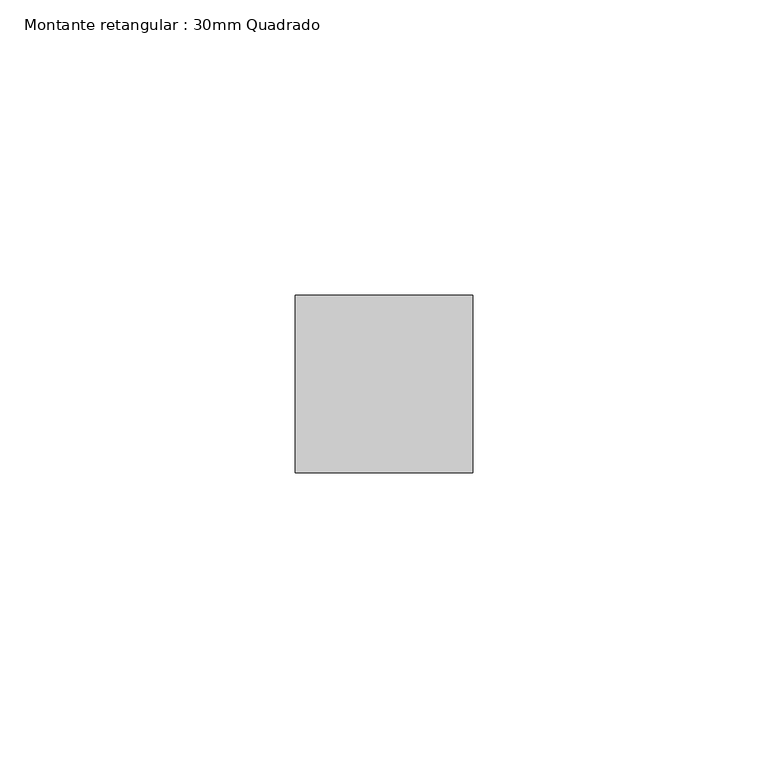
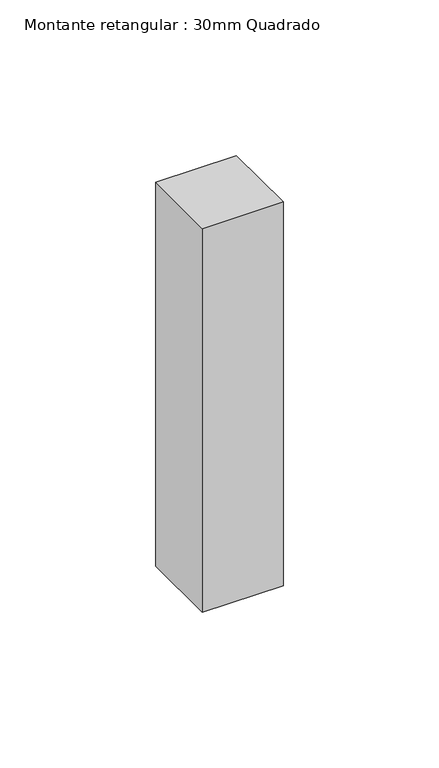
"""IFC4 building model written with IfcOpenShell, lengths in millimetres: member geometry, Montante retangular : 30mm Quadrado."""

import ifcopenshell
import ifcopenshell.guid

model = None  # the IFC model being written
_history = None  # IfcOwnerHistory: only IFC2X3 demands one
_inside = {}  # id of a spatial element -> (the spatial element, [elements in it])
_under = {}  # id of a project, library or spatial element -> (it, [spatial elements below it])
_declared = {}  # id of a project -> (the project, [libraries it declares])
_typed = {}  # id of a type object -> (the type object, [elements of that type])
_made_of = {}  # id of a material, layer set ... -> (it, [elements and type objects made of it])


def new_model(schema):
    """Start an empty IFC model of exactly this schema.

    Asked for "IFC4X3", IfcOpenShell would pick the latest addendum, in which some entities
    have other attributes; the version numbers below select the first issue.
    IFC2X3 requires an IfcOwnerHistory on every rooted entity: one is made here for all.
    """
    global model, _history
    if schema == "IFC4X3":
        model = ifcopenshell.file(schema_version=(4, 3, 0, 0))
    else:
        model = ifcopenshell.file(schema=schema)
    _inside.clear()
    _under.clear()
    _declared.clear()
    _typed.clear()
    _made_of.clear()
    _history = None
    if model.schema == "IFC2X3":
        org = make("IfcOrganization", Name="unknown")
        user = make(
            "IfcPersonAndOrganization",
            ThePerson=make("IfcPerson", FamilyName="unknown"),
            TheOrganization=org,
        )
        app = make(
            "IfcApplication",
            ApplicationDeveloper=org,
            Version="unknown",
            ApplicationFullName="unknown",
            ApplicationIdentifier="unknown",
        )
        _history = make(
            "IfcOwnerHistory",
            OwningUser=user,
            OwningApplication=app,
            ChangeAction="ADDED",
            CreationDate=0,
        )
    return model


def make(cls, **values):
    """One entity of the class cls with the attributes given. An attribute that is None is left unset."""
    return model.create_entity(
        cls, **{name: value for name, value in values.items() if value is not None}
    )


def rooted(cls, **values):
    """An entity with a GlobalId (a new one), such as an element, a storey or a relation."""
    return make(cls, GlobalId=ifcopenshell.guid.new(), OwnerHistory=_history, **values)


def si_unit(unit_type, name, prefix=None):
    """IfcSIUnit, for example si_unit("LENGTHUNIT", "METRE", prefix="MILLI")."""
    return make("IfcSIUnit", UnitType=unit_type, Prefix=prefix, Name=name)


def assignment(units):
    """IfcUnitAssignment: the units of a project."""
    return None if units is None else make("IfcUnitAssignment", Units=units)


def point(xyz):
    """IfcCartesianPoint."""
    return None if xyz is None else make("IfcCartesianPoint", Coordinates=xyz)


def direction(xyz):
    """IfcDirection."""
    return None if xyz is None else make("IfcDirection", DirectionRatios=xyz)


def frame(location, z_axis=None, x_axis=None):
    """IfcAxis2Placement3D, a coordinate frame: its origin and axes. An axis left out is left unset."""
    return make(
        "IfcAxis2Placement3D",
        Location=point(location),
        Axis=direction(z_axis),
        RefDirection=direction(x_axis),
    )


def origin():
    """The frame at (0, 0, 0) with its axes left unset."""
    return frame((0.0, 0.0, 0.0))


def place(relative_to, where):
    """IfcLocalPlacement: puts the frame where relative to a parent placement (None: the world)."""
    return make(
        "IfcLocalPlacement", PlacementRelTo=relative_to, RelativePlacement=where
    )


def context(
    kind, dimensions, precision=None, world=None, true_north=None, identifier=None
):
    """IfcGeometricRepresentationContext, for example the 3D "Model" context."""
    return make(
        "IfcGeometricRepresentationContext",
        ContextIdentifier=identifier,
        ContextType=kind,
        CoordinateSpaceDimension=dimensions,
        Precision=precision,
        WorldCoordinateSystem=world,
        TrueNorth=true_north,
    )


def project(units=None, contexts=None):
    """IfcProject with its units and contexts."""
    return rooted(
        "IfcProject",
        Name="project",
        RepresentationContexts=contexts,
        UnitsInContext=assignment(units),
    )


def spatial(cls, under=None, at=None, **own):
    """A site, building, storey or space (cls), placed at a placement, below another one or the project."""
    s = rooted(cls, ObjectPlacement=at, **own)
    if under is not None:
        _under.setdefault(under.id(), (under, []))[1].append(s)
    return s


def polyline(points):
    """IfcPolyline through the points."""
    return make("IfcPolyline", Points=[point(p) for p in points])


def outline(outer, holes=None, kind="AREA"):
    """IfcArbitraryClosedProfileDef: a profile drawn as a closed curve; with holes, ...WithVoids."""
    if holes is None:
        return make("IfcArbitraryClosedProfileDef", ProfileType=kind, OuterCurve=outer)
    return make(
        "IfcArbitraryProfileDefWithVoids",
        ProfileType=kind,
        OuterCurve=outer,
        InnerCurves=holes,
    )


def extrude(swept, where, along, depth):
    """IfcExtrudedAreaSolid: the profile swept, set in the frame where, extruded along a direction by depth."""
    return make(
        "IfcExtrudedAreaSolid",
        SweptArea=swept,
        Position=where,
        ExtrudedDirection=direction(along),
        Depth=depth,
    )


def shape(context_of_items, identifier, shape_type, items):
    """IfcShapeRepresentation: the items that make up one representation, for example the "Body"."""
    return make(
        "IfcShapeRepresentation",
        ContextOfItems=context_of_items,
        RepresentationIdentifier=identifier,
        RepresentationType=shape_type,
        Items=items,
    )


def source(mapping_origin, context_of_items, identifier, shape_type, items):
    """IfcRepresentationMap: a shape defined once, which mapped items show again and again."""
    return make(
        "IfcRepresentationMap",
        MappingOrigin=mapping_origin,
        MappedRepresentation=shape(context_of_items, identifier, shape_type, items),
    )


def transform(
    local_origin,
    x_axis=None,
    y_axis=None,
    z_axis=None,
    scale=None,
    scale2=None,
    scale3=None,
    uniform=True,
):
    """IfcCartesianTransformationOperator3D, or its non-uniform kind. x_axis, y_axis, z_axis: its Axis1, 2, 3."""
    if uniform:
        return make(
            "IfcCartesianTransformationOperator3D",
            Axis1=direction(x_axis),
            Axis2=direction(y_axis),
            LocalOrigin=point(local_origin),
            Scale=scale,
            Axis3=direction(z_axis),
        )
    return make(
        "IfcCartesianTransformationOperator3DnonUniform",
        Axis1=direction(x_axis),
        Axis2=direction(y_axis),
        LocalOrigin=point(local_origin),
        Scale=scale,
        Axis3=direction(z_axis),
        Scale2=scale2,
        Scale3=scale3,
    )


def mapped(mapping_source, mapping_target):
    """IfcMappedItem: shows the shape of a source again, moved by a transform."""
    return make(
        "IfcMappedItem", MappingSource=mapping_source, MappingTarget=mapping_target
    )


def made_of(thing, what):
    """Note that an element or type object is made of a material, layer set ...; save() writes the relation."""
    if what is not None:
        _made_of.setdefault(what.id(), (what, []))[1].append(thing)
    return thing


def element(
    cls,
    number,
    at=None,
    inside=None,
    cuts=None,
    type_object=None,
    material=None,
    context=None,
    identifier="Body",
    shape_type=None,
    held_by="IfcProductDefinitionShape",
    body=None,
    shapes=None,
    **own,
):
    """One element of the class cls, such as IfcWall. Its Tag is "e" and its number.

    at: its placement. inside: the storey or other place that contains it. cuts: it is an
    opening in that element (IfcRelVoidsElement). A single representation is given by context,
    identifier, shape_type and body (its items); several are given by shapes. held_by: the class
    of the entity that holds the representations. save() writes the other relations.
    """
    e = rooted(cls, Tag="e%d" % number, ObjectPlacement=at, **own)
    if body is not None:
        shapes = [shape(context, identifier, shape_type, body)]
    if shapes is not None:
        e.Representation = make(held_by, Representations=shapes)
    if inside is not None:
        _inside.setdefault(inside.id(), (inside, []))[1].append(e)
    if cuts is not None:
        rooted(
            "IfcRelVoidsElement", RelatingBuildingElement=cuts, RelatedOpeningElement=e
        )
    if type_object is not None:
        _typed.setdefault(type_object.id(), (type_object, []))[1].append(e)
    return made_of(e, material)


def aggregate(whole, parts):
    """IfcRelAggregates: a whole, such as a stair, and the parts it consists of."""
    return rooted("IfcRelAggregates", RelatingObject=whole, RelatedObjects=parts)


def save(model, path):
    """Write the relations noted so far, then the file.

    IfcRelAggregates (storeys below a building ...), IfcRelContainedInSpatialStructure (elements
    in a storey), IfcRelDefinesByType, IfcRelAssociatesMaterial and IfcRelDeclares: one each for
    every whole, place, type object, material and project.
    """
    for whole, parts in _under.values():
        aggregate(whole, parts)
    for where, things in _inside.values():
        rooted(
            "IfcRelContainedInSpatialStructure",
            RelatedElements=things,
            RelatingStructure=where,
        )
    for kind, things in _typed.values():
        rooted("IfcRelDefinesByType", RelatedObjects=things, RelatingType=kind)
    for what, things in _made_of.values():
        rooted("IfcRelAssociatesMaterial", RelatedObjects=things, RelatingMaterial=what)
    for by, libraries in _declared.values():
        rooted("IfcRelDeclares", RelatingContext=by, RelatedDefinitions=libraries)
    model.write(path)


def montante_retangular_30mm_quadrado_2d3e9df2(model_context):
    return source(origin(), model_context, "Body", "SweptSolid", [
        extrude(outline(polyline([(15.0, 15.0), (15.0, -15.0), (-15.0, -15.0), (-15.0, 15.0), (15.0, 15.0)])), frame((0.0, 0.0, -150.4776861), z_axis=(0.0, 0.0, 1.0), x_axis=(1.0, 0.0, 0.0)), (0.0, 0.0, 1.0), 150.4776861),
    ])


if __name__ == "__main__":
    model = new_model("IFC4")
    model_context = context("Model", 3, world=origin())
    ifc_project = project(units=[si_unit("LENGTHUNIT", "METRE", prefix="MILLI")], contexts=[model_context])
    site = spatial("IfcSite", under=ifc_project)
    building = spatial("IfcBuilding", under=site)
    placement = place(None, origin())
    montante_retangular_30mm_quadrado_shape = montante_retangular_30mm_quadrado_2d3e9df2(model_context)
    element("IfcMember", 1, ObjectType="Montante retangular : 30mm Quadrado", at=placement, inside=building, context=model_context, shape_type="MappedRepresentation", body=[
        mapped(montante_retangular_30mm_quadrado_shape, transform((0.0, 0.0, 0.0), x_axis=(1.0, 0.0, 0.0), y_axis=(0.0, 1.0, 0.0), z_axis=(0.0, 0.0, 1.0))),
    ])
    save(model, "model.ifc")
